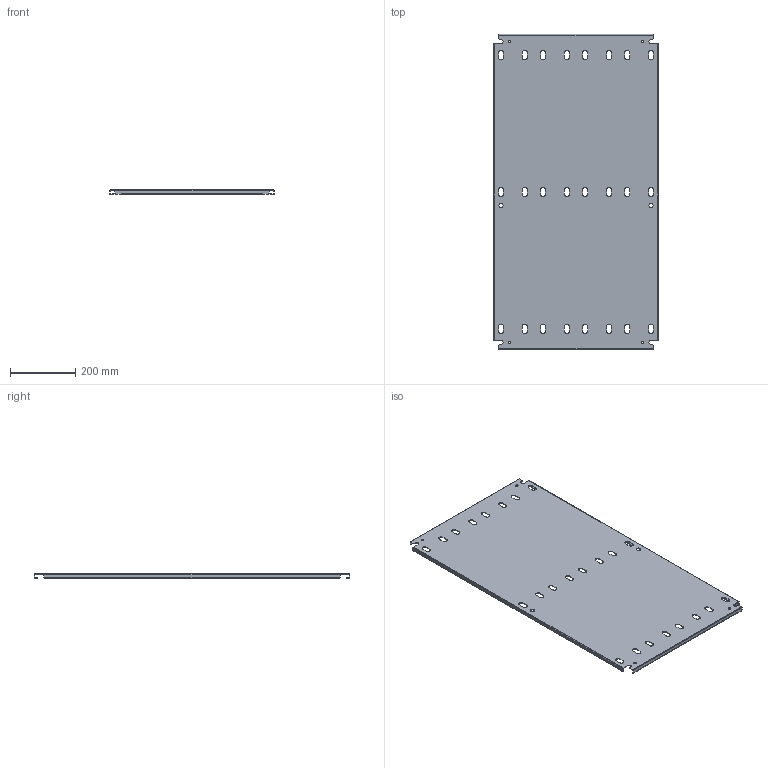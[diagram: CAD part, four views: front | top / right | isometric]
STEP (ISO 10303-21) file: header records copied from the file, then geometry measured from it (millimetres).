
FILE_DESCRIPTION(/* description */ ('1412BTSSCU 19.838" x 38" Inner Panel'),/* implementation_level */ '2;1');
FILE_NAME(/* name */ 'C:\Vault_Workspace\Inventor_Dwg\BoxCad\Result\1412BTSSCU05404\e-mail\3D\1412BTSSCU05404IP1.stp',/* time_stamp */ '2022-09-02T09:33:27-04:00',/* author */ ('BoxCad'),/* organization */ (''),/* preprocessor_version */ 'ST-DEVELOPER v18.1',/* originating_system */ 'Autodesk Inventor 2020',/* authorisation */ '');
FILE_SCHEMA (('AUTOMOTIVE_DESIGN { 1 0 10303 214 3 1 1 }'));
Length unit declared in the file: inch
Products named in the file (2): 1412BTSSCU05404IP1; 1412BTSSCU05404IP1-P
Assembly tree (1 placements, depth 2):
  1412BTSSCU05404IP1
    1412BTSSCU05404IP1-P
Bounding box: 503.89 x 965.2 x 13 mm (x, y, z)
Volume: 906703.1 mm3; surface area: 1058856.4 mm2
Topology: 1 solids, 1 shells, 216 faces, 642 edges, 428 vertices
Faces by surface type: plane 118, cylinder 98
Full cylindrical faces by diameter (mm): 7.366 x4, 12.7 x2
Entity records: 7471 total; most frequent: CARTESIAN_POINT 1289, ORIENTED_EDGE 1284, DIRECTION 1276, EDGE_CURVE 642, LINE 446, VECTOR 446, VERTEX_POINT 428, AXIS2_PLACEMENT_3D 415
